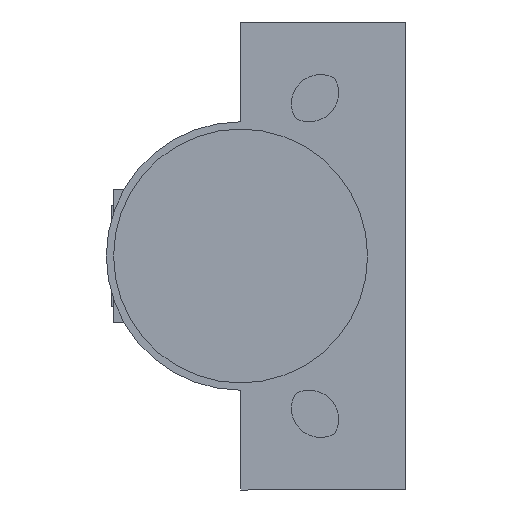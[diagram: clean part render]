
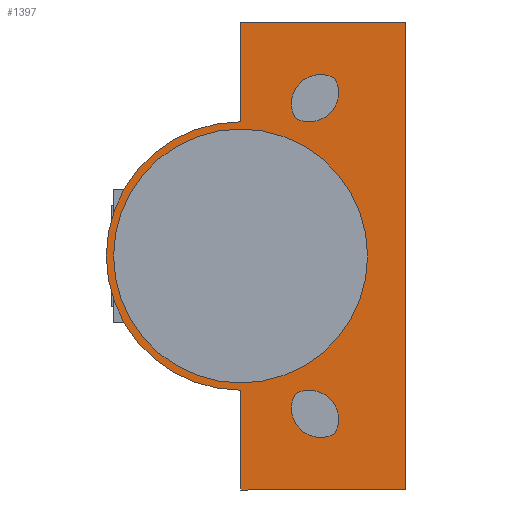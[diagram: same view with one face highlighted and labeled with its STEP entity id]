
A CAD part, front view. The second image highlights one B-rep face of the part: STEP entity #1397.
In plain terms, the highlighted planar face has unit normal (0, -1, 0).
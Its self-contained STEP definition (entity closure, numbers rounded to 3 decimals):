
#16 = ORIENTED_EDGE ( 'NONE', *, *, #1599, .F. ) ;
#17 = AXIS2_PLACEMENT_3D ( 'NONE', #239, #229, #224 ) ;
#20 = VERTEX_POINT ( 'NONE', #660 ) ;
#31 = ORIENTED_EDGE ( 'NONE', *, *, #1712, .F. ) ;
#33 = ORIENTED_EDGE ( 'NONE', *, *, #1529, .F. ) ;
#42 = CIRCLE ( 'NONE', #17, 17.5 ) ;
#56 = ORIENTED_EDGE ( 'NONE', *, *, #171, .F. ) ;
#61 = DIRECTION ( 'NONE',  ( 1., 0., 0. ) ) ;
#65 = ORIENTED_EDGE ( 'NONE', *, *, #334, .F. ) ;
#70 = ORIENTED_EDGE ( 'NONE', *, *, #1338, .F. ) ;
#71 = CIRCLE ( 'NONE', #1250, 18.5 ) ;
#78 = ORIENTED_EDGE ( 'NONE', *, *, #823, .F. ) ;
#90 = CARTESIAN_POINT ( 'NONE',  ( 44.25, -38.5, -32.25 ) ) ;
#93 = CARTESIAN_POINT ( 'NONE',  ( 28.5, -38.5, 21. ) ) ;
#111 = ORIENTED_EDGE ( 'NONE', *, *, #1276, .F. ) ;
#112 = DIRECTION ( 'NONE',  ( 0., -1., 0. ) ) ;
#142 = ORIENTED_EDGE ( 'NONE', *, *, #1449, .F. ) ;
#161 = CARTESIAN_POINT ( 'NONE',  ( 44.25, -38.5, 32.25 ) ) ;
#163 = AXIS2_PLACEMENT_3D ( 'NONE', #1240, #1235, #1229 ) ;
#171 = EDGE_CURVE ( 'NONE', #1007, #1054, #1496, .T. ) ;
#172 = DIRECTION ( 'NONE',  ( 0., 0., -1. ) ) ;
#174 = CARTESIAN_POINT ( 'NONE',  ( 21.5, -38.5, 32.25 ) ) ;
#176 = ORIENTED_EDGE ( 'NONE', *, *, #474, .T. ) ;
#180 = ORIENTED_EDGE ( 'NONE', *, *, #600, .F. ) ;
#182 = CARTESIAN_POINT ( 'NONE',  ( 34.477, -38.5, -24.477 ) ) ;
#199 = ORIENTED_EDGE ( 'NONE', *, *, #1505, .F. ) ;
#201 = CARTESIAN_POINT ( 'NONE',  ( 32.5, -38.5, -21. ) ) ;
#224 = DIRECTION ( 'NONE',  ( -1., 0., 0. ) ) ;
#229 = DIRECTION ( 'NONE',  ( 0., -1., 0. ) ) ;
#233 = CIRCLE ( 'NONE', #989, 4. ) ;
#239 = CARTESIAN_POINT ( 'NONE',  ( 21.5, -38.5, 0. ) ) ;
#242 = DIRECTION ( 'NONE',  ( 0., 0., 1. ) ) ;
#252 = CARTESIAN_POINT ( 'NONE',  ( 21.5, -38.5, 18.5 ) ) ;
#294 = CARTESIAN_POINT ( 'NONE',  ( 39., -38.5, 0. ) ) ;
#310 = CIRCLE ( 'NONE', #815, 4. ) ;
#312 = CARTESIAN_POINT ( 'NONE',  ( 28.5, -38.5, -21. ) ) ;
#314 = VERTEX_POINT ( 'NONE', #182 ) ;
#334 = EDGE_CURVE ( 'NONE', #1054, #398, #1623, .T. ) ;
#341 = FACE_BOUND ( 'NONE', #383, .T. ) ;
#369 = EDGE_LOOP ( 'NONE', ( #180, #176, #65, #56, #31, #16 ) ) ;
#376 = CIRCLE ( 'NONE', #1422, 4. ) ;
#383 = EDGE_LOOP ( 'NONE', ( #1074, #416, #199 ) ) ;
#396 = CARTESIAN_POINT ( 'NONE',  ( 21.5, -38.5, -18.5 ) ) ;
#398 = VERTEX_POINT ( 'NONE', #90 ) ;
#405 = EDGE_LOOP ( 'NONE', ( #142, #78 ) ) ;
#414 = CARTESIAN_POINT ( 'NONE',  ( 34.477, -38.5, 24.477 ) ) ;
#416 = ORIENTED_EDGE ( 'NONE', *, *, #1254, .F. ) ;
#467 = DIRECTION ( 'NONE',  ( 1., 0., 0. ) ) ;
#474 = EDGE_CURVE ( 'NONE', #1326, #398, #1713, .T. ) ;
#484 = CARTESIAN_POINT ( 'NONE',  ( 44.25, -38.5, 32.25 ) ) ;
#498 = CARTESIAN_POINT ( 'NONE',  ( 21.5, -38.5, 18.5 ) ) ;
#600 = EDGE_CURVE ( 'NONE', #1326, #924, #875, .T. ) ;
#617 = CIRCLE ( 'NONE', #1127, 17.5 ) ;
#660 = CARTESIAN_POINT ( 'NONE',  ( 4., -38.5, 0. ) ) ;
#673 = VECTOR ( 'NONE', #242, 1000. ) ;
#687 = DIRECTION ( 'NONE',  ( 1., 0., 0. ) ) ;
#752 = CARTESIAN_POINT ( 'NONE',  ( 32.5, -38.5, 21. ) ) ;
#771 = FACE_BOUND ( 'NONE', #405, .T. ) ;
#785 = CARTESIAN_POINT ( 'NONE',  ( 44.25, -38.5, -32.25 ) ) ;
#795 = DIRECTION ( 'NONE',  ( 1., 0., 0. ) ) ;
#814 = VERTEX_POINT ( 'NONE', #294 ) ;
#815 = AXIS2_PLACEMENT_3D ( 'NONE', #1099, #1092, #1087 ) ;
#823 = EDGE_CURVE ( 'NONE', #814, #20, #42, .T. ) ;
#838 = DIRECTION ( 'NONE',  ( 0., -1., 0. ) ) ;
#854 = AXIS2_PLACEMENT_3D ( 'NONE', #1341, #1328, #1319 ) ;
#869 = CARTESIAN_POINT ( 'NONE',  ( 29.023, -38.5, -19.023 ) ) ;
#875 = LINE ( 'NONE', #1687, #1655 ) ;
#920 = DIRECTION ( 'NONE',  ( -1., 0., 0. ) ) ;
#923 = DIRECTION ( 'NONE',  ( 0., 1., 0. ) ) ;
#924 = VERTEX_POINT ( 'NONE', #396 ) ;
#925 = CARTESIAN_POINT ( 'NONE',  ( 21.5, -38.5, 0. ) ) ;
#943 = VERTEX_POINT ( 'NONE', #312 ) ;
#954 = CARTESIAN_POINT ( 'NONE',  ( 21.5, -38.5, -32.25 ) ) ;
#986 = VERTEX_POINT ( 'NONE', #93 ) ;
#989 = AXIS2_PLACEMENT_3D ( 'NONE', #752, #838, #795 ) ;
#1005 = VERTEX_POINT ( 'NONE', #869 ) ;
#1007 = VERTEX_POINT ( 'NONE', #174 ) ;
#1020 = LINE ( 'NONE', #252, #673 ) ;
#1027 = DIRECTION ( 'NONE',  ( 0., -1., 0. ) ) ;
#1030 = VERTEX_POINT ( 'NONE', #498 ) ;
#1039 = DIRECTION ( 'NONE',  ( -1., 0., 0. ) ) ;
#1054 = VERTEX_POINT ( 'NONE', #1136 ) ;
#1074 = ORIENTED_EDGE ( 'NONE', *, *, #1550, .F. ) ;
#1087 = DIRECTION ( 'NONE',  ( 1., 0., 0. ) ) ;
#1092 = DIRECTION ( 'NONE',  ( 0., -1., 0. ) ) ;
#1099 = CARTESIAN_POINT ( 'NONE',  ( 31., -38.5, -22.5 ) ) ;
#1103 = CARTESIAN_POINT ( 'NONE',  ( 21.5, -38.5, 0. ) ) ;
#1114 = VERTEX_POINT ( 'NONE', #1701 ) ;
#1127 = AXIS2_PLACEMENT_3D ( 'NONE', #1103, #1027, #1039 ) ;
#1136 = CARTESIAN_POINT ( 'NONE',  ( 44.25, -38.5, 32.25 ) ) ;
#1154 = CIRCLE ( 'NONE', #163, 4. ) ;
#1229 = DIRECTION ( 'NONE',  ( 1., 0., 0. ) ) ;
#1235 = DIRECTION ( 'NONE',  ( 0., -1., 0. ) ) ;
#1237 = VECTOR ( 'NONE', #172, 1000. ) ;
#1240 = CARTESIAN_POINT ( 'NONE',  ( 32.5, -38.5, 21. ) ) ;
#1250 = AXIS2_PLACEMENT_3D ( 'NONE', #925, #923, #920 ) ;
#1254 = EDGE_CURVE ( 'NONE', #943, #314, #376, .T. ) ;
#1260 = EDGE_LOOP ( 'NONE', ( #70, #33, #111 ) ) ;
#1269 = VECTOR ( 'NONE', #467, 1000. ) ;
#1276 = EDGE_CURVE ( 'NONE', #1283, #986, #233, .T. ) ;
#1279 = CIRCLE ( 'NONE', #1468, 4. ) ;
#1282 = VECTOR ( 'NONE', #687, 1000. ) ;
#1283 = VERTEX_POINT ( 'NONE', #414 ) ;
#1319 = DIRECTION ( 'NONE',  ( -1., 0., 0. ) ) ;
#1326 = VERTEX_POINT ( 'NONE', #954 ) ;
#1328 = DIRECTION ( 'NONE',  ( 0., 1., 0. ) ) ;
#1331 = PLANE ( 'NONE',  #854 ) ;
#1338 = EDGE_CURVE ( 'NONE', #1114, #1283, #1279, .T. ) ;
#1341 = CARTESIAN_POINT ( 'NONE',  ( 21.5, -38.5, 0. ) ) ;
#1397 = ADVANCED_FACE ( 'NONE', ( #1402, #341, #771, #1580 ), #1331, .F. ) ;
#1402 = FACE_OUTER_BOUND ( 'NONE', #369, .T. ) ;
#1422 = AXIS2_PLACEMENT_3D ( 'NONE', #1647, #1676, #1686 ) ;
#1449 = EDGE_CURVE ( 'NONE', #20, #814, #617, .T. ) ;
#1464 = CIRCLE ( 'NONE', #1502, 4. ) ;
#1468 = AXIS2_PLACEMENT_3D ( 'NONE', #1488, #1503, #1501 ) ;
#1488 = CARTESIAN_POINT ( 'NONE',  ( 31., -38.5, 22.5 ) ) ;
#1496 = LINE ( 'NONE', #484, #1269 ) ;
#1501 = DIRECTION ( 'NONE',  ( 1., 0., 0. ) ) ;
#1502 = AXIS2_PLACEMENT_3D ( 'NONE', #201, #112, #61 ) ;
#1503 = DIRECTION ( 'NONE',  ( 0., -1., 0. ) ) ;
#1505 = EDGE_CURVE ( 'NONE', #1005, #943, #1464, .T. ) ;
#1529 = EDGE_CURVE ( 'NONE', #986, #1114, #1154, .T. ) ;
#1550 = EDGE_CURVE ( 'NONE', #314, #1005, #310, .T. ) ;
#1580 = FACE_BOUND ( 'NONE', #1260, .T. ) ;
#1599 = EDGE_CURVE ( 'NONE', #924, #1030, #71, .T. ) ;
#1623 = LINE ( 'NONE', #161, #1237 ) ;
#1647 = CARTESIAN_POINT ( 'NONE',  ( 32.5, -38.5, -21. ) ) ;
#1655 = VECTOR ( 'NONE', #1671, 1000. ) ;
#1671 = DIRECTION ( 'NONE',  ( 0., 0., 1. ) ) ;
#1676 = DIRECTION ( 'NONE',  ( 0., -1., 0. ) ) ;
#1686 = DIRECTION ( 'NONE',  ( 1., 0., 0. ) ) ;
#1687 = CARTESIAN_POINT ( 'NONE',  ( 21.5, -38.5, -31. ) ) ;
#1701 = CARTESIAN_POINT ( 'NONE',  ( 29.023, -38.5, 19.023 ) ) ;
#1712 = EDGE_CURVE ( 'NONE', #1030, #1007, #1020, .T. ) ;
#1713 = LINE ( 'NONE', #785, #1282 ) ;
